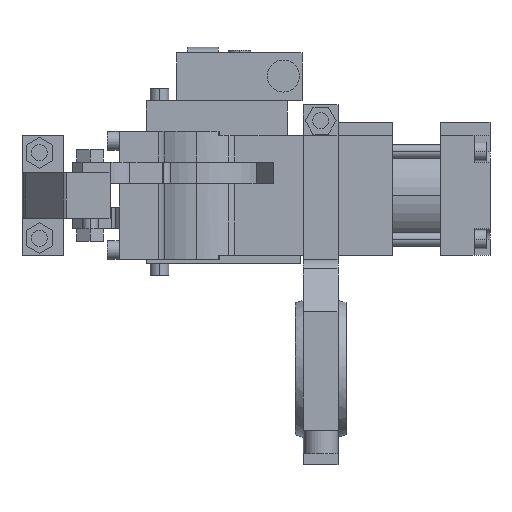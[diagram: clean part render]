
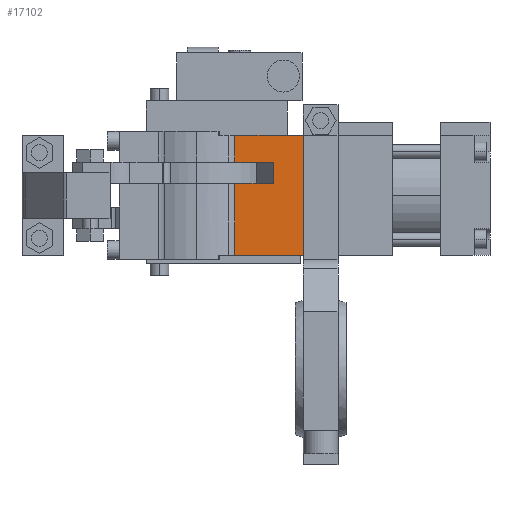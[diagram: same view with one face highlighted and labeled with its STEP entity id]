
A CAD part, left-side view. The second image highlights one B-rep face of the part: STEP entity #17102.
In plain terms, the highlighted planar face has unit normal (-1, 0, 0).
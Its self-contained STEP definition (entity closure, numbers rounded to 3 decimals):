
#129 = DIRECTION ( 'NONE',  ( 1., 0., 0. ) ) ;
#167 = VERTEX_POINT ( 'NONE', #10584 ) ;
#1188 = VERTEX_POINT ( 'NONE', #5545 ) ;
#1224 = LINE ( 'NONE', #13379, #17284 ) ;
#1250 = CARTESIAN_POINT ( 'NONE',  ( -22.5, -28.702, 12.5 ) ) ;
#1375 = DIRECTION ( 'NONE',  ( 0., 0., 1. ) ) ;
#1740 = CARTESIAN_POINT ( 'NONE',  ( -22.5, -14.309, 12.5 ) ) ;
#2728 = ORIENTED_EDGE ( 'NONE', *, *, #12870, .T. ) ;
#2812 = ORIENTED_EDGE ( 'NONE', *, *, #16640, .F. ) ;
#2994 = CARTESIAN_POINT ( 'NONE',  ( -22.5, -14.309, 4.5 ) ) ;
#3224 = EDGE_CURVE ( 'NONE', #14800, #167, #10212, .T. ) ;
#3359 = CARTESIAN_POINT ( 'NONE',  ( -22.5, -14.309, 22.5 ) ) ;
#3489 = EDGE_CURVE ( 'NONE', #18260, #9921, #17496, .T. ) ;
#4049 = LINE ( 'NONE', #12926, #20042 ) ;
#4077 = ORIENTED_EDGE ( 'NONE', *, *, #3224, .T. ) ;
#4250 = VECTOR ( 'NONE', #8177, 1000. ) ;
#4892 = DIRECTION ( 'NONE',  ( 0., 1., 0. ) ) ;
#4921 = CARTESIAN_POINT ( 'NONE',  ( -22.5, -28.702, 4.5 ) ) ;
#5171 = DIRECTION ( 'NONE',  ( 0., 0., -1. ) ) ;
#5177 = VECTOR ( 'NONE', #11540, 1000. ) ;
#5403 = ORIENTED_EDGE ( 'NONE', *, *, #5849, .T. ) ;
#5545 = CARTESIAN_POINT ( 'NONE',  ( -22.5, -40., 22.5 ) ) ;
#5693 = LINE ( 'NONE', #9966, #5177 ) ;
#5849 = EDGE_CURVE ( 'NONE', #12668, #14800, #4049, .T. ) ;
#5859 = ORIENTED_EDGE ( 'NONE', *, *, #9482, .F. ) ;
#6022 = LINE ( 'NONE', #6856, #9645 ) ;
#6454 = VECTOR ( 'NONE', #11898, 1000. ) ;
#6856 = CARTESIAN_POINT ( 'NONE',  ( -22.5, -40., 12.5 ) ) ;
#7006 = EDGE_CURVE ( 'NONE', #7340, #18726, #15188, .T. ) ;
#7340 = VERTEX_POINT ( 'NONE', #3359 ) ;
#8162 = CARTESIAN_POINT ( 'NONE',  ( -22.5, -40., -22.5 ) ) ;
#8177 = DIRECTION ( 'NONE',  ( 0., 1., 0. ) ) ;
#8380 = LINE ( 'NONE', #14348, #4250 ) ;
#8517 = EDGE_LOOP ( 'NONE', ( #5859, #11470, #2728, #5403, #4077, #2812, #11861, #12675 ) ) ;
#8707 = CARTESIAN_POINT ( 'NONE',  ( -22.5, -14.309, -22.5 ) ) ;
#9482 = EDGE_CURVE ( 'NONE', #9921, #18726, #1224, .T. ) ;
#9645 = VECTOR ( 'NONE', #12995, 1000. ) ;
#9921 = VERTEX_POINT ( 'NONE', #12958 ) ;
#9966 = CARTESIAN_POINT ( 'NONE',  ( -22.5, -40., 22.5 ) ) ;
#10212 = LINE ( 'NONE', #8162, #13825 ) ;
#10584 = CARTESIAN_POINT ( 'NONE',  ( -22.5, -40., -22.5 ) ) ;
#11470 = ORIENTED_EDGE ( 'NONE', *, *, #3489, .F. ) ;
#11540 = DIRECTION ( 'NONE',  ( 0., 1., 0. ) ) ;
#11861 = ORIENTED_EDGE ( 'NONE', *, *, #14043, .T. ) ;
#11898 = DIRECTION ( 'NONE',  ( 0., 0., -1. ) ) ;
#12668 = VERTEX_POINT ( 'NONE', #2994 ) ;
#12675 = ORIENTED_EDGE ( 'NONE', *, *, #7006, .T. ) ;
#12870 = EDGE_CURVE ( 'NONE', #18260, #12668, #8380, .T. ) ;
#12895 = VECTOR ( 'NONE', #1375, 1000. ) ;
#12926 = CARTESIAN_POINT ( 'NONE',  ( -22.5, -14.309, 12.5 ) ) ;
#12958 = CARTESIAN_POINT ( 'NONE',  ( -22.5, -28.702, 12.5 ) ) ;
#12995 = DIRECTION ( 'NONE',  ( 0., 0., -1. ) ) ;
#13379 = CARTESIAN_POINT ( 'NONE',  ( -22.5, -14.309, 12.5 ) ) ;
#13825 = VECTOR ( 'NONE', #17566, 1000. ) ;
#14043 = EDGE_CURVE ( 'NONE', #1188, #7340, #5693, .T. ) ;
#14050 = CARTESIAN_POINT ( 'NONE',  ( -22.5, -14.309, 12.5 ) ) ;
#14177 = PLANE ( 'NONE',  #14223 ) ;
#14223 = AXIS2_PLACEMENT_3D ( 'NONE', #1740, #129, #4892 ) ;
#14348 = CARTESIAN_POINT ( 'NONE',  ( -22.5, -14.309, 4.5 ) ) ;
#14800 = VERTEX_POINT ( 'NONE', #8707 ) ;
#14937 = DIRECTION ( 'NONE',  ( 0., 1., 0. ) ) ;
#15188 = LINE ( 'NONE', #18037, #6454 ) ;
#15737 = FACE_OUTER_BOUND ( 'NONE', #8517, .T. ) ;
#16640 = EDGE_CURVE ( 'NONE', #1188, #167, #6022, .T. ) ;
#17102 = ADVANCED_FACE ( 'NONE', ( #15737 ), #14177, .F. ) ;
#17284 = VECTOR ( 'NONE', #14937, 1000. ) ;
#17496 = LINE ( 'NONE', #1250, #12895 ) ;
#17566 = DIRECTION ( 'NONE',  ( 0., -1., 0. ) ) ;
#18037 = CARTESIAN_POINT ( 'NONE',  ( -22.5, -14.309, 12.5 ) ) ;
#18260 = VERTEX_POINT ( 'NONE', #4921 ) ;
#18726 = VERTEX_POINT ( 'NONE', #14050 ) ;
#20042 = VECTOR ( 'NONE', #5171, 1000. ) ;
